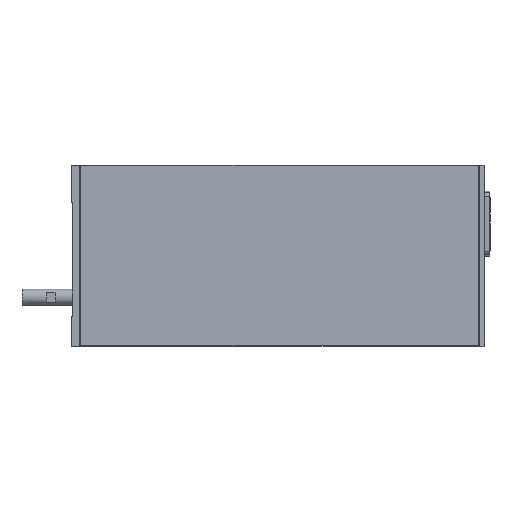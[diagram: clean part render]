
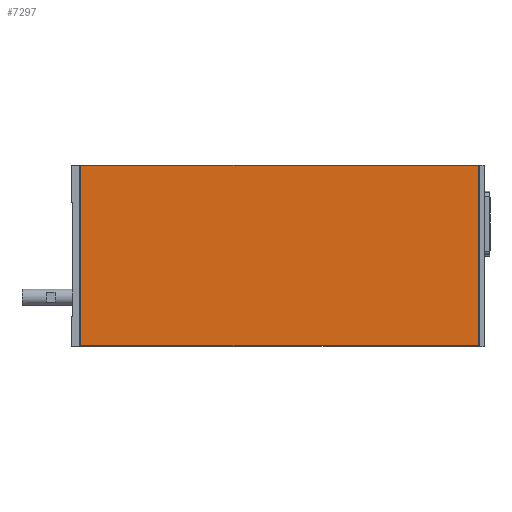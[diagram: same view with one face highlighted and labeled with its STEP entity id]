
A CAD part, top view. The second image highlights one B-rep face of the part: STEP entity #7297.
In plain terms, the highlighted planar face has unit normal (0, 0, 1).
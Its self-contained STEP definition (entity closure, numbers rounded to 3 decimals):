
#7175=CARTESIAN_POINT('',(5.5,0.5,52.5));
#7176=VERTEX_POINT('',#7175);
#7183=CARTESIAN_POINT('',(5.5,110.0,52.5));
#7184=VERTEX_POINT('',#7183);
#7185=CARTESIAN_POINT('',(5.5,110.0,52.5));
#7186=DIRECTION('',(0.0,-1.0,0.0));
#7187=VECTOR('',#7186,109.5);
#7188=LINE('',#7185,#7187);
#7189=EDGE_CURVE('',#7184,#7176,#7188,.T.);
#7206=CARTESIAN_POINT('',(246.5,110.0,52.5));
#7207=VERTEX_POINT('',#7206);
#7214=CARTESIAN_POINT('',(246.5,0.5,52.5));
#7215=VERTEX_POINT('',#7214);
#7216=CARTESIAN_POINT('',(246.5,110.0,52.5));
#7217=DIRECTION('',(0.0,-1.0,0.0));
#7218=VECTOR('',#7217,109.5);
#7219=LINE('',#7216,#7218);
#7220=EDGE_CURVE('',#7207,#7215,#7219,.T.);
#7255=CARTESIAN_POINT('',(246.5,110.0,52.5));
#7256=DIRECTION('',(-1.0,0.0,0.0));
#7257=VECTOR('',#7256,241.);
#7258=LINE('',#7255,#7257);
#7259=EDGE_CURVE('',#7207,#7184,#7258,.T.);
#7272=CARTESIAN_POINT('',(246.5,0.5,52.5));
#7273=DIRECTION('',(-1.0,0.0,0.0));
#7274=VECTOR('',#7273,241.);
#7275=LINE('',#7272,#7274);
#7276=EDGE_CURVE('',#7215,#7176,#7275,.T.);
#7286=CARTESIAN_POINT('',(242.534,55.25,52.5));
#7287=DIRECTION('',(0.0,0.0,1.0));
#7288=DIRECTION('',(1.0,0.0,0.0));
#7289=AXIS2_PLACEMENT_3D('',#7286,#7287,#7288);
#7290=PLANE('',#7289);
#7291=ORIENTED_EDGE('',*,*,#7220,.F.);
#7292=ORIENTED_EDGE('',*,*,#7259,.T.);
#7293=ORIENTED_EDGE('',*,*,#7189,.T.);
#7294=ORIENTED_EDGE('',*,*,#7276,.F.);
#7295=EDGE_LOOP('',(#7291,#7292,#7293,#7294));
#7296=FACE_OUTER_BOUND('',#7295,.T.);
#7297=ADVANCED_FACE('',(#7296),#7290,.T.);
